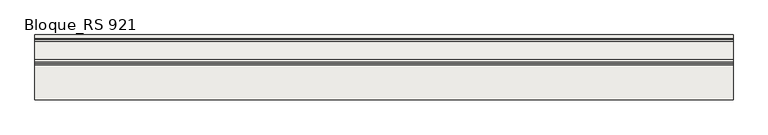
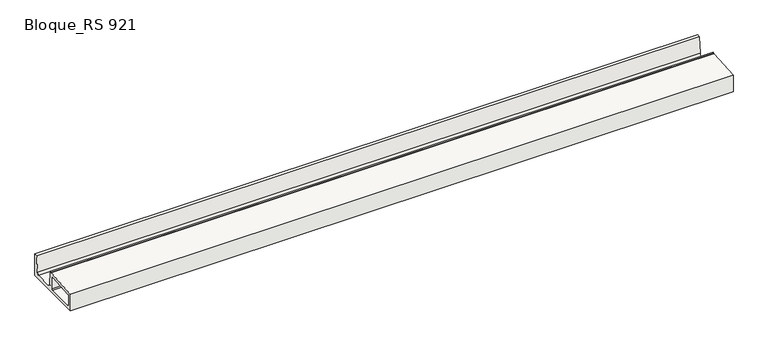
"""IFC4 building model written with IfcOpenShell, lengths in millimetres: slab geometry, ROSA GRES_RS 921 : Bloque_RS 921."""

from ifc_helpers import new_model, si_unit, point, frame, frame_2d, origin, place, context, project, spatial, polyline, circle_curve, trimmed, segment, composite_curve, outline, extrude, source, transform, mapped, element, save


def bloque_rs_921_51ceacdb(model_context):
    return source(origin(), model_context, "Body", "SweptSolid", [
        extrude(outline(composite_curve([segment(polyline([(572.95, 220.7738447), (572.95, 15.0), (14.0, 15.0), (14.0, 171.045529), (316.0814672, 195.6335554), (315.739238, 199.838085), (329.4801557, 200.9565318), (339.6622462, 68.4547526)]), True, "CONTINUOUS"), segment(trimmed(circle_curve(frame_2d((359.6024621, 70.0)), 20.0), [point((339.6622462, 68.4547526))], [point((359.6024621, 50.0))], True, "CARTESIAN"), True, "CONTINUOUS"), segment(polyline([(359.6024621, 50.0), (513.2975379, 50.0)]), True, "CONTINUOUS"), segment(trimmed(circle_curve(frame_2d((513.2975379, 70.0)), 20.0), [point((513.2975379, 50.0))], [point((533.2377538, 68.4547526))], True, "CARTESIAN"), True, "CONTINUOUS"), segment(polyline([(533.2377538, 68.4547526), (544.8644176, 218.487809), (572.95, 220.7738447)]), True, "CONTINUOUS")], self_intersect=False), holes=[composite_curve([segment(trimmed(circle_curve(frame_2d((294.4200858, 153.7241904)), 8.0), [point((302.4200858, 153.7241904))], [point((293.7710693, 161.6978206))], True, "CARTESIAN"), True, "CONTINUOUS"), segment(polyline([(293.7710693, 161.6978206), (55.7710693, 142.3257276)]), True, "CONTINUOUS"), segment(trimmed(circle_curve(frame_2d((56.4200858, 134.3520974)), 8.0), [point((55.7710693, 142.3257276))], [point((48.4200858, 134.3520974))], True, "CARTESIAN"), True, "CONTINUOUS"), segment(polyline([(48.4200858, 134.3520974), (48.4200858, 50.0)]), True, "CONTINUOUS"), segment(trimmed(circle_curve(frame_2d((56.4200858, 50.0)), 8.0), [point((48.4200858, 50.0))], [point((56.4200858, 42.0))], True, "CARTESIAN"), True, "CONTINUOUS"), segment(polyline([(56.4200858, 42.0), (294.4200858, 42.0)]), True, "CONTINUOUS"), segment(trimmed(circle_curve(frame_2d((294.4200858, 50.0)), 8.0), [point((294.4200858, 42.0))], [point((302.4200858, 50.0))], True, "CARTESIAN"), True, "CONTINUOUS"), segment(polyline([(302.4200858, 50.0), (302.4200858, 153.7241904)]), True, "CONTINUOUS")], self_intersect=False)]), frame((0.0, 0.0, 0.0), z_axis=(1.0, 0.0, 0.0), x_axis=(0.0, 1.0, 0.0)), (0.0, 0.0, 1.0), 6008.75),
    ])


if __name__ == "__main__":
    model = new_model("IFC4")
    model_context = context("Model", 3, world=origin())
    ifc_project = project(units=[si_unit("LENGTHUNIT", "METRE", prefix="MILLI")], contexts=[model_context])
    site = spatial("IfcSite", under=ifc_project)
    building = spatial("IfcBuilding", under=site)
    placement = place(None, origin())
    bloque_rs_921_shape = bloque_rs_921_51ceacdb(model_context)
    element("IfcSlab", 1, ObjectType="ROSA GRES_RS 921 : Bloque_RS 921", at=placement, inside=building, context=model_context, shape_type="MappedRepresentation", body=[
        mapped(bloque_rs_921_shape, transform((0.0, 0.0, 0.0), x_axis=(1.0, 0.0, 0.0), y_axis=(0.0, 1.0, 0.0), z_axis=(0.0, 0.0, 1.0))),
    ])
    save(model, "model.ifc")
